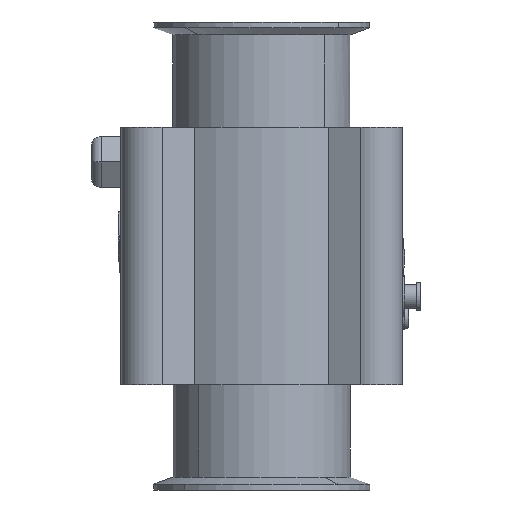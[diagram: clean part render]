
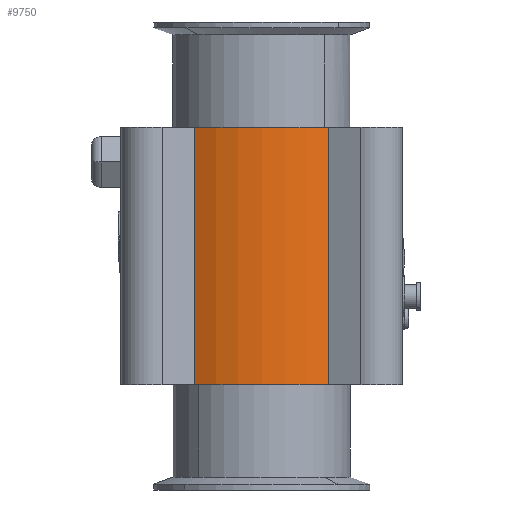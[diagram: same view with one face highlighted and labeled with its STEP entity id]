
A CAD part, front view. The second image highlights one B-rep face of the part: STEP entity #9750.
In plain terms, the highlighted cylindrical face has radius 68 mm (diameter 136 mm), a partial arc.
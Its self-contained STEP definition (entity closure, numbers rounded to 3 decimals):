
#870=CARTESIAN_POINT('',(-65.288,-113.,19.012));
#880=VERTEX_POINT('',#870);
#910=CARTESIAN_POINT('',(0.,-113.,
0.));
#920=DIRECTION('',(0.,1.,0.));
#930=DIRECTION('',(1.,0.,0.));
#940=AXIS2_PLACEMENT_3D('',#910,#920,#930);
#950=CIRCLE('',#940,68.);
#960=CARTESIAN_POINT('',(-19.012,-113.,65.288));
#970=VERTEX_POINT('',#960);
#980=EDGE_CURVE('',#880,#970,#950,.T.);
#4380=CARTESIAN_POINT('',(-19.012,13.,65.288));
#4390=VERTEX_POINT('',#4380);
#4440=CARTESIAN_POINT('',(-19.012,13.,65.288));
#4450=DIRECTION('',(0.,-1.,0.));
#4460=VECTOR('',#4450,1000.);
#4470=LINE('',#4440,#4460);
#4480=EDGE_CURVE('',#4390,#970,#4470,.T.);
#5320=CARTESIAN_POINT('',(-65.288,13.,19.012));
#5330=VERTEX_POINT('',#5320);
#5360=CARTESIAN_POINT('',(-65.288,13.,19.012));
#5370=DIRECTION('',(0.,-1.,0.));
#5380=VECTOR('',#5370,1000.);
#5390=LINE('',#5360,#5380);
#5400=EDGE_CURVE('',#5330,#880,#5390,.T.);
#9580=CARTESIAN_POINT('',(0.,13.,0.));
#9590=DIRECTION('',(0.,-1.,0.));
#9600=DIRECTION('',(0.,0.,-1.));
#9610=AXIS2_PLACEMENT_3D('',#9580,#9590,#9600);
#9620=CYLINDRICAL_SURFACE('',#9610,68.);
#9630=ORIENTED_EDGE('',*,*,#980,.T.);
#9640=ORIENTED_EDGE('',*,*,#5400,.T.);
#9650=CARTESIAN_POINT('',(0.,13.,0.));
#9660=DIRECTION('',(0.,-1.,0.));
#9670=DIRECTION('',(0.,0.,-1.));
#9680=AXIS2_PLACEMENT_3D('',#9650,#9660,#9670);
#9690=CIRCLE('',#9680,68.);
#9700=EDGE_CURVE('',#4390,#5330,#9690,.T.);
#9710=ORIENTED_EDGE('',*,*,#9700,.T.);
#9720=ORIENTED_EDGE('',*,*,#4480,.F.);
#9730=EDGE_LOOP('',(#9720,#9710,#9640,#9630));
#9740=FACE_OUTER_BOUND('',#9730,.T.);
#9750=ADVANCED_FACE('',(#9740),#9620,.T.);
